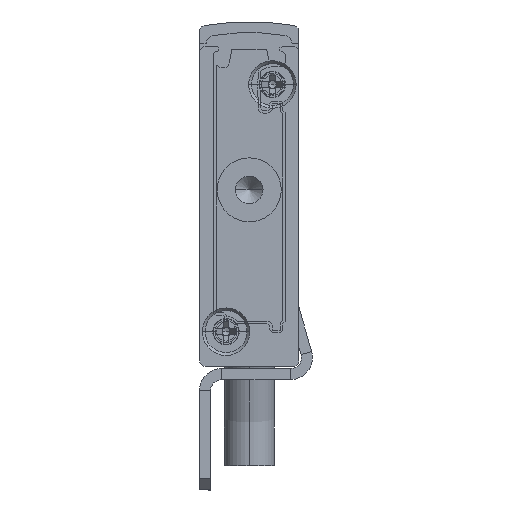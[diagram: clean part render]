
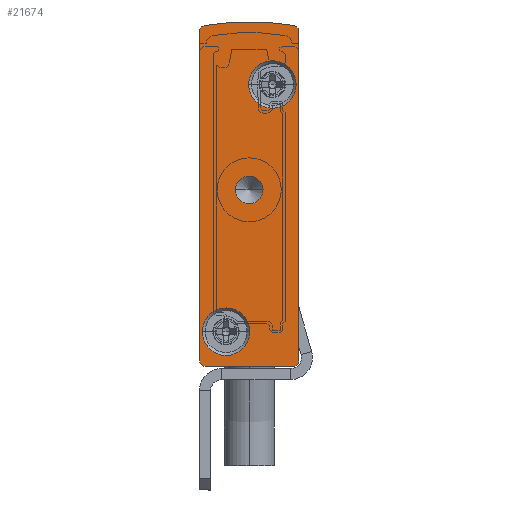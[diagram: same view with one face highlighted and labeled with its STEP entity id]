
A CAD part, front view. The second image highlights one B-rep face of the part: STEP entity #21674.
In plain terms, the highlighted planar face has unit normal (0, -1, 0).
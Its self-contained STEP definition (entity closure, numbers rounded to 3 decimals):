
#131 = DIRECTION ( 'NONE',  ( 1., 0., 0. ) ) ;
#923 = AXIS2_PLACEMENT_3D ( 'NONE', #4873, #23331, #10348 ) ;
#945 = VERTEX_POINT ( 'NONE', #10369 ) ;
#1104 = AXIS2_PLACEMENT_3D ( 'NONE', #11302, #7510, #131 ) ;
#1108 = EDGE_CURVE ( 'NONE', #2501, #4542, #16406, .T. ) ;
#1243 = AXIS2_PLACEMENT_3D ( 'NONE', #11204, #20312, #9383 ) ;
#1502 = DIRECTION ( 'NONE',  ( 0., 1., 0. ) ) ;
#1585 = DIRECTION ( 'NONE',  ( -1., 0., 0. ) ) ;
#1709 = EDGE_CURVE ( 'NONE', #15860, #945, #7389, .T. ) ;
#1894 = EDGE_LOOP ( 'NONE', ( #4575, #13070 ) ) ;
#2252 = CARTESIAN_POINT ( 'NONE',  ( 0., -2.5, 30.402 ) ) ;
#2501 = VERTEX_POINT ( 'NONE', #6956 ) ;
#3249 = EDGE_CURVE ( 'NONE', #5768, #12612, #11777, .T. ) ;
#3312 = FACE_BOUND ( 'NONE', #3426, .T. ) ;
#3426 = EDGE_LOOP ( 'NONE', ( #14169, #16358 ) ) ;
#3698 = DIRECTION ( 'NONE',  ( 0., 1., 0. ) ) ;
#3851 = CARTESIAN_POINT ( 'NONE',  ( -8.592, -2.5, 30.893 ) ) ;
#4106 = CARTESIAN_POINT ( 'NONE',  ( -8.5, -2.5, 0. ) ) ;
#4200 = EDGE_CURVE ( 'NONE', #22291, #11016, #16882, .T. ) ;
#4542 = VERTEX_POINT ( 'NONE', #6392 ) ;
#4575 = ORIENTED_EDGE ( 'NONE', *, *, #19554, .F. ) ;
#4629 = CARTESIAN_POINT ( 'NONE',  ( -8.75, -2.5, 3.15 ) ) ;
#4873 = CARTESIAN_POINT ( 'NONE',  ( -8.5, -2.5, 0.5 ) ) ;
#5198 = EDGE_CURVE ( 'NONE', #6030, #11858, #23846, .T. ) ;
#5377 = FACE_OUTER_BOUND ( 'NONE', #19857, .T. ) ;
#5519 = CIRCLE ( 'NONE', #923, 0.5 ) ;
#5588 = AXIS2_PLACEMENT_3D ( 'NONE', #5726, #9138, #12955 ) ;
#5663 = CARTESIAN_POINT ( 'NONE',  ( -4.45, -2.5, 3.15 ) ) ;
#5726 = CARTESIAN_POINT ( 'NONE',  ( -4.5, -2.5, 16. ) ) ;
#5768 = VERTEX_POINT ( 'NONE', #18308 ) ;
#6030 = VERTEX_POINT ( 'NONE', #4629 ) ;
#6055 = AXIS2_PLACEMENT_3D ( 'NONE', #18366, #12758, #19939 ) ;
#6081 = DIRECTION ( 'NONE',  ( -1., 0., 0. ) ) ;
#6222 = ORIENTED_EDGE ( 'NONE', *, *, #18974, .F. ) ;
#6324 = VERTEX_POINT ( 'NONE', #3851 ) ;
#6392 = CARTESIAN_POINT ( 'NONE',  ( -0.5, -2.5, 0. ) ) ;
#6956 = CARTESIAN_POINT ( 'NONE',  ( 0., -2.5, 0.5 ) ) ;
#7064 = ORIENTED_EDGE ( 'NONE', *, *, #19423, .F. ) ;
#7164 = FACE_BOUND ( 'NONE', #1894, .T. ) ;
#7374 = DIRECTION ( 'NONE',  ( 0., 0., -1. ) ) ;
#7389 = CIRCLE ( 'NONE', #7943, 2.15 ) ;
#7484 = DIRECTION ( 'NONE',  ( 0., -1., 0. ) ) ;
#7510 = DIRECTION ( 'NONE',  ( 0., -1., 0. ) ) ;
#7733 = VECTOR ( 'NONE', #7374, 1000. ) ;
#7943 = AXIS2_PLACEMENT_3D ( 'NONE', #18731, #7484, #13110 ) ;
#8230 = CARTESIAN_POINT ( 'NONE',  ( -9., -2.5, 30.402 ) ) ;
#8340 = CIRCLE ( 'NONE', #22400, 0.5 ) ;
#8569 = CARTESIAN_POINT ( 'NONE',  ( -8.5, -2.5, 0. ) ) ;
#8697 = ORIENTED_EDGE ( 'NONE', *, *, #1108, .F. ) ;
#8781 = VERTEX_POINT ( 'NONE', #4106 ) ;
#8845 = ORIENTED_EDGE ( 'NONE', *, *, #1709, .F. ) ;
#9138 = DIRECTION ( 'NONE',  ( 0., 1., 0. ) ) ;
#9383 = DIRECTION ( 'NONE',  ( -1., 0., 0. ) ) ;
#9573 = ORIENTED_EDGE ( 'NONE', *, *, #3249, .F. ) ;
#9776 = VECTOR ( 'NONE', #18746, 1000. ) ;
#10348 = DIRECTION ( 'NONE',  ( -1., 0., 0. ) ) ;
#10355 = VECTOR ( 'NONE', #17928, 1000. ) ;
#10369 = CARTESIAN_POINT ( 'NONE',  ( -0.25, -2.5, 25.55 ) ) ;
#10898 = CARTESIAN_POINT ( 'NONE',  ( -8.5, -2.5, 30.402 ) ) ;
#10948 = DIRECTION ( 'NONE',  ( 0., -1., 0. ) ) ;
#11016 = VERTEX_POINT ( 'NONE', #11540 ) ;
#11123 = DIRECTION ( 'NONE',  ( 0., -1., 0. ) ) ;
#11204 = CARTESIAN_POINT ( 'NONE',  ( -8.5, -2.5, 30.402 ) ) ;
#11302 = CARTESIAN_POINT ( 'NONE',  ( -6.6, -2.5, 3.15 ) ) ;
#11477 = AXIS2_PLACEMENT_3D ( 'NONE', #12684, #1502, #1585 ) ;
#11540 = CARTESIAN_POINT ( 'NONE',  ( -3.25, -2.5, 16. ) ) ;
#11710 = DIRECTION ( 'NONE',  ( -1., 0., 0. ) ) ;
#11777 = LINE ( 'NONE', #16795, #9776 ) ;
#11858 = VERTEX_POINT ( 'NONE', #5663 ) ;
#11890 = CARTESIAN_POINT ( 'NONE',  ( -0.408, -2.5, 30.893 ) ) ;
#11985 = AXIS2_PLACEMENT_3D ( 'NONE', #19067, #22985, #11710 ) ;
#12612 = VERTEX_POINT ( 'NONE', #8230 ) ;
#12684 = CARTESIAN_POINT ( 'NONE',  ( -0.5, -2.5, 0.5 ) ) ;
#12758 = DIRECTION ( 'NONE',  ( 0., 1., 0. ) ) ;
#12789 = EDGE_CURVE ( 'NONE', #11016, #22291, #17668, .T. ) ;
#12922 = CARTESIAN_POINT ( 'NONE',  ( -4.55, -2.5, 25.55 ) ) ;
#12955 = DIRECTION ( 'NONE',  ( -1., 0., 0. ) ) ;
#13070 = ORIENTED_EDGE ( 'NONE', *, *, #5198, .F. ) ;
#13110 = DIRECTION ( 'NONE',  ( 1., 0., 0. ) ) ;
#13882 = AXIS2_PLACEMENT_3D ( 'NONE', #23866, #11123, #14515 ) ;
#14169 = ORIENTED_EDGE ( 'NONE', *, *, #4200, .T. ) ;
#14515 = DIRECTION ( 'NONE',  ( 1., 0., 0. ) ) ;
#15551 = EDGE_LOOP ( 'NONE', ( #17688, #8845 ) ) ;
#15856 = EDGE_CURVE ( 'NONE', #23274, #2501, #16698, .T. ) ;
#15860 = VERTEX_POINT ( 'NONE', #12922 ) ;
#15869 = ORIENTED_EDGE ( 'NONE', *, *, #22929, .F. ) ;
#16289 = DIRECTION ( 'NONE',  ( 1., 0., 0. ) ) ;
#16358 = ORIENTED_EDGE ( 'NONE', *, *, #12789, .T. ) ;
#16363 = CARTESIAN_POINT ( 'NONE',  ( -6.6, -2.5, 3.15 ) ) ;
#16406 = CIRCLE ( 'NONE', #11477, 0.5 ) ;
#16426 = CARTESIAN_POINT ( 'NONE',  ( 0., -2.5, 30.402 ) ) ;
#16559 = DIRECTION ( 'NONE',  ( -1., 0., 0. ) ) ;
#16651 = AXIS2_PLACEMENT_3D ( 'NONE', #16363, #10948, #16289 ) ;
#16698 = LINE ( 'NONE', #16426, #7733 ) ;
#16795 = CARTESIAN_POINT ( 'NONE',  ( -9., -2.5, 30.402 ) ) ;
#16882 = CIRCLE ( 'NONE', #20986, 1.25 ) ;
#17156 = VERTEX_POINT ( 'NONE', #11890 ) ;
#17164 = ORIENTED_EDGE ( 'NONE', *, *, #15856, .F. ) ;
#17202 = CARTESIAN_POINT ( 'NONE',  ( -4.5, -2.5, 16. ) ) ;
#17260 = EDGE_CURVE ( 'NONE', #8781, #5768, #5519, .T. ) ;
#17668 = CIRCLE ( 'NONE', #5588, 1.25 ) ;
#17688 = ORIENTED_EDGE ( 'NONE', *, *, #20824, .F. ) ;
#17928 = DIRECTION ( 'NONE',  ( -1., 0., 0. ) ) ;
#17976 = CIRCLE ( 'NONE', #13882, 2.15 ) ;
#18308 = CARTESIAN_POINT ( 'NONE',  ( -9., -2.5, 0.5 ) ) ;
#18366 = CARTESIAN_POINT ( 'NONE',  ( -0.5, -2.5, 30.402 ) ) ;
#18731 = CARTESIAN_POINT ( 'NONE',  ( -2.4, -2.5, 25.55 ) ) ;
#18746 = DIRECTION ( 'NONE',  ( 0., 0., 1. ) ) ;
#18974 = EDGE_CURVE ( 'NONE', #6324, #17156, #22625, .T. ) ;
#19022 = FACE_BOUND ( 'NONE', #15551, .T. ) ;
#19067 = CARTESIAN_POINT ( 'NONE',  ( -4.5, -2.5, 7.592 ) ) ;
#19084 = CIRCLE ( 'NONE', #16651, 2.15 ) ;
#19423 = EDGE_CURVE ( 'NONE', #17156, #23274, #23977, .T. ) ;
#19483 = ORIENTED_EDGE ( 'NONE', *, *, #17260, .F. ) ;
#19554 = EDGE_CURVE ( 'NONE', #11858, #6030, #19084, .T. ) ;
#19581 = LINE ( 'NONE', #8569, #10355 ) ;
#19857 = EDGE_LOOP ( 'NONE', ( #22502, #9573, #19483, #15869, #8697, #17164, #7064, #6222 ) ) ;
#19939 = DIRECTION ( 'NONE',  ( -1., 0., 0. ) ) ;
#20312 = DIRECTION ( 'NONE',  ( 0., 1., 0. ) ) ;
#20824 = EDGE_CURVE ( 'NONE', #945, #15860, #17976, .T. ) ;
#20986 = AXIS2_PLACEMENT_3D ( 'NONE', #17202, #22517, #6081 ) ;
#21674 = ADVANCED_FACE ( 'NONE', ( #19022, #7164, #5377, #3312 ), #22114, .F. ) ;
#21692 = EDGE_CURVE ( 'NONE', #12612, #6324, #8340, .T. ) ;
#22114 = PLANE ( 'NONE',  #1243 ) ;
#22291 = VERTEX_POINT ( 'NONE', #22328 ) ;
#22328 = CARTESIAN_POINT ( 'NONE',  ( -5.75, -2.5, 16. ) ) ;
#22400 = AXIS2_PLACEMENT_3D ( 'NONE', #10898, #3698, #16559 ) ;
#22502 = ORIENTED_EDGE ( 'NONE', *, *, #21692, .F. ) ;
#22517 = DIRECTION ( 'NONE',  ( 0., 1., 0. ) ) ;
#22625 = CIRCLE ( 'NONE', #11985, 23.658 ) ;
#22929 = EDGE_CURVE ( 'NONE', #4542, #8781, #19581, .T. ) ;
#22985 = DIRECTION ( 'NONE',  ( 0., 1., 0. ) ) ;
#23274 = VERTEX_POINT ( 'NONE', #2252 ) ;
#23331 = DIRECTION ( 'NONE',  ( 0., 1., 0. ) ) ;
#23846 = CIRCLE ( 'NONE', #1104, 2.15 ) ;
#23866 = CARTESIAN_POINT ( 'NONE',  ( -2.4, -2.5, 25.55 ) ) ;
#23977 = CIRCLE ( 'NONE', #6055, 0.5 ) ;
